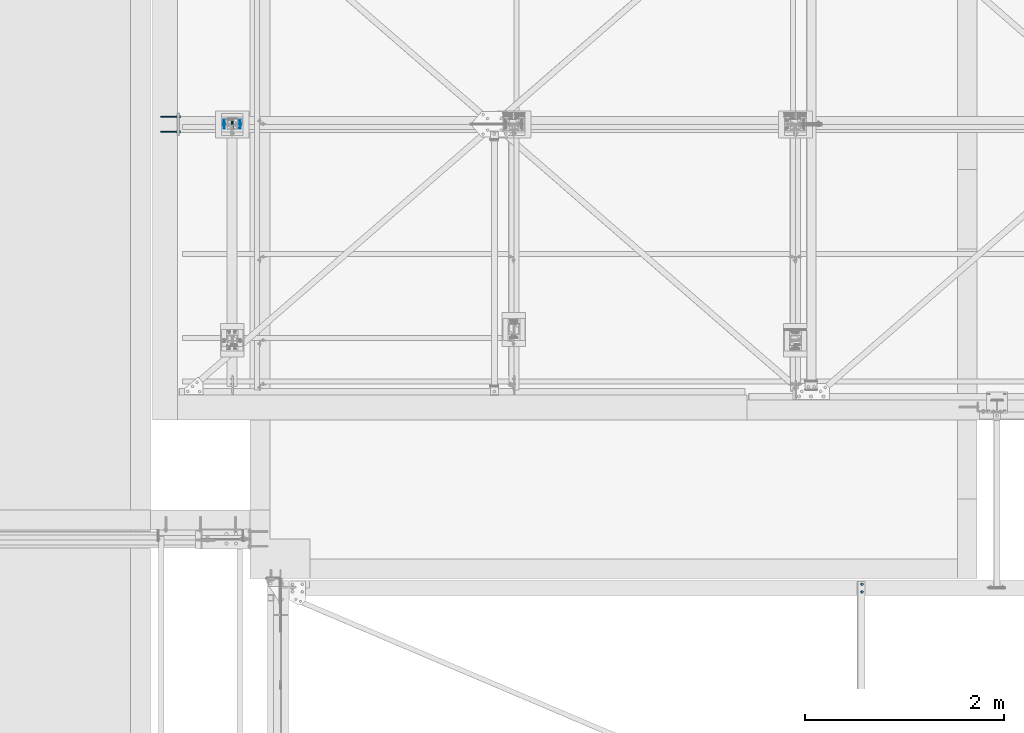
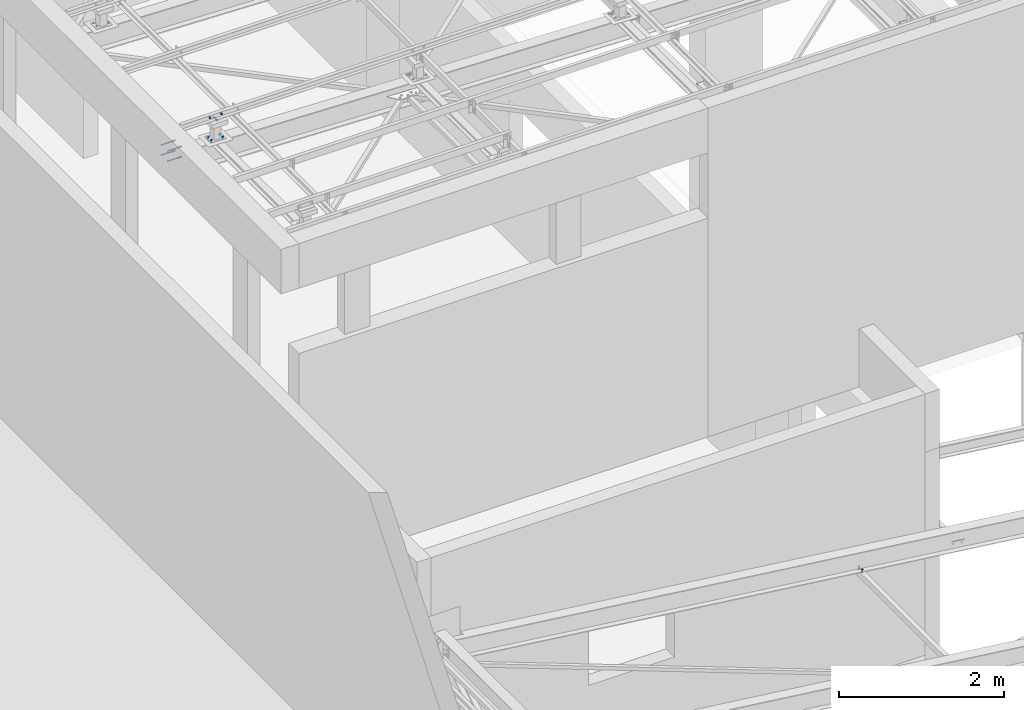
# One storey, part 223 of 3134: 6 mechanical fasteners, 4 elements without a shape of their own.
"""IFC2X3 building model written with IfcOpenShell, lengths in millimetres."""

from ifc_helpers import new_model, si_unit, frame, origin_with_axes, place, context, subcontext, project, spatial, faceted_brep, source, transform, mapped, material, type_object, element, aggregate, save


model = new_model("IFC2X3")

# Units and contexts
model_context = context("Model", 3, precision=1e-05, world=origin_with_axes())
body_context = subcontext(model_context, "Body", "Model", "MODEL_VIEW")
ifc_project = project(units=[si_unit("LENGTHUNIT", "METRE", prefix="MILLI"), si_unit("AREAUNIT", "SQUARE_METRE"), si_unit("VOLUMEUNIT", "CUBIC_METRE"), si_unit("MASSUNIT", "GRAM", prefix="KILO"), si_unit("TIMEUNIT", "SECOND"), si_unit("PLANEANGLEUNIT", "RADIAN"), si_unit("SOLIDANGLEUNIT", "STERADIAN"), si_unit("THERMODYNAMICTEMPERATUREUNIT", "DEGREE_CELSIUS"), si_unit("LUMINOUSINTENSITYUNIT", "LUMEN")], contexts=[model_context])

# Site, building, storey
site_placement = place(None, origin_with_axes())
site = spatial("IfcSite", under=ifc_project, at=site_placement, CompositionType="ELEMENT")
building_placement = place(site_placement, origin_with_axes())
building = spatial("IfcBuilding", under=site, at=building_placement, Name="Undefined", CompositionType="ELEMENT")
storey_placement = place(building_placement, origin_with_axes())
storey = spatial("IfcBuildingStorey", under=building, at=storey_placement, Name="Undefined", CompositionType="ELEMENT", Elevation=0.0)

# Assembly, mechanical fastener
assembly_1_placement = place(storey_placement, origin_with_axes())
assembly_1 = element("IfcElementAssembly", 1, at=assembly_1_placement, inside=storey, AssemblyPlace="NOTDEFINED", PredefinedType="RIGID_FRAME")
ifc_material_1 = material(Name="8.8")
mechanical_fastener_type = type_object("IfcMechanicalFastenerType", Name="Bolt assembly")
shared_shape_1 = source(origin_with_axes(), body_context, "Body", "Brep", [
    faceted_brep([(10.9696551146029, -14.0, 0.0), (5.48482755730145, -14.0, 9.5), (-5.48482755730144, -14.0, 9.5), (-10.9696551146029, -14.0, 1.34339530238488e-15), (-5.48482755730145, -14.0, -9.5), (5.48482755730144, -14.0, -9.50000000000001), (5.48482755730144, -6.0, -9.50000000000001), (-5.48482755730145, -6.0, -9.5), (-10.9696551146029, -6.0, 1.34339530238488e-15), (-5.48482755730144, -6.0, 9.5), (5.48482755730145, -6.0, 9.5), (10.9696551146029, -6.0, 0.0), (6.0, -6.0, 0.0), (5.19615242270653, -6.0, 3.00000000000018), (2.99999999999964, -6.0, 5.19615242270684), (-6.21801588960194e-13, -6.0, 6.0), (-3.00000000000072, -6.0, 5.19615242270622), (-5.19615242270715, -6.0, 2.9999999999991), (-6.0, -6.0, -1.24360317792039e-12), (-5.19615242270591, -6.0, -3.00000000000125), (-2.99999999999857, -6.0, -5.19615242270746), (1.85874342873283e-12, -6.0, -6.0), (3.00000000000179, -6.0, -5.1961524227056), (5.19615242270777, -6.0, -2.99999999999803), (5.19615242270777, 19.0, -2.99999999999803), (3.00000000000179, 19.0, -5.1961524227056), (1.85874342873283e-12, 19.0, -6.0), (-2.99999999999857, 19.0, -5.19615242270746), (-5.19615242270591, 19.0, -3.00000000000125), (-6.0, 19.0, -1.24360317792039e-12), (-5.19615242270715, 19.0, 2.9999999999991), (-3.00000000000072, 19.0, 5.19615242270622), (-6.21801588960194e-13, 19.0, 6.0), (2.99999999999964, 19.0, 5.19615242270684), (5.19615242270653, 19.0, 3.00000000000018), (6.0, 19.0, 0.0), (10.9696551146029, 4.00000000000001, 0.0), (5.48482755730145, 4.00000000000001, 9.5), (-5.48482755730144, 4.00000000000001, 9.5), (-10.9696551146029, 4.00000000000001, 1.34339530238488e-15), (-5.48482755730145, 4.00000000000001, -9.5), (5.48482755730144, 4.00000000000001, -9.50000000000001), (5.48482755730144, 14.0, -9.50000000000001), (-5.48482755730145, 14.0, -9.5), (-10.9696551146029, 14.0, 1.34339530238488e-15), (-5.48482755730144, 14.0, 9.5), (5.48482755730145, 14.0, 9.5), (10.9696551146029, 14.0, 0.0)], [[[0, 1, 2, 3, 4, 5]], [[6, 7, 8, 9, 10, 11]], [[0, 11, 10, 1]], [[1, 10, 9, 2]], [[2, 9, 8, 3]], [[3, 8, 7, 4]], [[4, 7, 6, 5]], [[5, 6, 11, 0]], [[12, 13, 14, 15, 16, 17, 18, 19, 20, 21, 22, 23]], [[24, 25, 26, 27, 28, 29, 30, 31, 32, 33, 34, 35]], [[12, 35, 34, 13]], [[13, 34, 33, 14]], [[14, 33, 32, 15]], [[15, 32, 31, 16]], [[16, 31, 30, 17]], [[17, 30, 29, 18]], [[18, 29, 28, 19]], [[19, 28, 27, 20]], [[20, 27, 26, 21]], [[21, 26, 25, 22]], [[22, 25, 24, 23]], [[23, 24, 35, 12]], [[36, 37, 38, 39, 40, 41]], [[42, 43, 44, 45, 46, 47]], [[36, 47, 46, 37]], [[37, 46, 45, 38]], [[38, 45, 44, 39]], [[39, 44, 43, 40]], [[40, 43, 42, 41]], [[41, 42, 47, 36]]]),
    faceted_brep([(7.0, -0.1, 0.0), (6.06217782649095, -0.1, 3.50000000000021), (3.49999999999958, -0.1, 6.06217782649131), (-7.25435187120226e-13, -0.1, 7.0), (-3.50000000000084, -0.1, 6.06217782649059), (-6.06217782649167, -0.1, 3.49999999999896), (-7.0, -0.1, -1.45087037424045e-12), (-6.06217782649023, -0.1, -3.50000000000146), (-3.49999999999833, -0.1, -6.06217782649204), (2.1685340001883e-12, -0.1, -7.0), (3.50000000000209, -0.1, -6.06217782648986), (6.0621778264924, -0.1, -3.4999999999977), (6.0621778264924, 4.00000000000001, -3.4999999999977), (3.50000000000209, 4.00000000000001, -6.06217782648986), (2.1685340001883e-12, 4.00000000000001, -7.0), (-3.49999999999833, 4.00000000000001, -6.06217782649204), (-6.06217782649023, 4.00000000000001, -3.50000000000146), (-7.0, 4.00000000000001, -1.45087037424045e-12), (-6.06217782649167, 4.00000000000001, 3.49999999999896), (-3.50000000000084, 4.00000000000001, 6.06217782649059), (-7.25435187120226e-13, 4.00000000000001, 7.0), (3.49999999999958, 4.00000000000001, 6.06217782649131), (6.06217782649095, 4.00000000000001, 3.50000000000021), (7.0, 4.00000000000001, 0.0), (7.0, -5.9, 0.0), (6.06217782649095, -5.9, 3.50000000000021), (3.49999999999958, -5.9, 6.06217782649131), (-7.25435187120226e-13, -5.9, 7.0), (-3.50000000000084, -5.9, 6.06217782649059), (-6.06217782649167, -5.9, 3.49999999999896), (-7.0, -5.9, -1.45087037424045e-12), (-6.06217782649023, -5.9, -3.50000000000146), (-3.49999999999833, -5.9, -6.06217782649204), (2.1685340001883e-12, -5.9, -7.0), (3.50000000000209, -5.9, -6.06217782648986), (6.0621778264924, -5.9, -3.4999999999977), (6.0621778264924, 0.0999999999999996, -3.4999999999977), (3.50000000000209, 0.0999999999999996, -6.06217782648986), (2.1685340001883e-12, 0.0999999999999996, -7.0), (-3.49999999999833, 0.0999999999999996, -6.06217782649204), (-6.06217782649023, 0.0999999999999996, -3.50000000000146), (-7.0, 0.0999999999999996, -1.45087037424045e-12), (-6.06217782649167, 0.0999999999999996, 3.49999999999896), (-3.50000000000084, 0.0999999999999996, 6.06217782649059), (-7.25435187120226e-13, 0.0999999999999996, 7.0), (3.49999999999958, 0.0999999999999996, 6.06217782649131), (6.06217782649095, 0.0999999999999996, 3.50000000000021), (7.0, 0.0999999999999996, 0.0)], [[[0, 1, 2, 3, 4, 5, 6, 7, 8, 9, 10, 11]], [[12, 13, 14, 15, 16, 17, 18, 19, 20, 21, 22, 23]], [[0, 23, 22, 1]], [[1, 22, 21, 2]], [[2, 21, 20, 3]], [[3, 20, 19, 4]], [[4, 19, 18, 5]], [[5, 18, 17, 6]], [[6, 17, 16, 7]], [[7, 16, 15, 8]], [[8, 15, 14, 9]], [[9, 14, 13, 10]], [[10, 13, 12, 11]], [[11, 12, 23, 0]], [[24, 25, 26, 27, 28, 29, 30, 31, 32, 33, 34, 35]], [[36, 37, 38, 39, 40, 41, 42, 43, 44, 45, 46, 47]], [[24, 47, 46, 25]], [[25, 46, 45, 26]], [[26, 45, 44, 27]], [[27, 44, 43, 28]], [[28, 43, 42, 29]], [[29, 42, 41, 30]], [[30, 41, 40, 31]], [[31, 40, 39, 32]], [[32, 39, 38, 33]], [[33, 38, 37, 34]], [[34, 37, 36, 35]], [[35, 36, 47, 24]]]),
])
mechanical_fastener_1_placement = place(assembly_1_placement, frame((20440.0, 52690.0, 10900.0), z_axis=(0.0, 0.0, 1.0), x_axis=(-1.0, 0.0, 0.0)))
mechanical_fastener_1 = element("IfcMechanicalFastener", 2, at=mechanical_fastener_1_placement, type_object=mechanical_fastener_type, material=ifc_material_1, Name="Bolt assembly", NominalDiameter=12.0, NominalLength=25.0, context=body_context, shape_type="MappedRepresentation", body=[
    mapped(shared_shape_1, transform((0.0, 0.0, 0.0))),
    mapped(shared_shape_1, transform((160.0, 0.0, 0.0))),
])

assembly_2_placement = place(storey_placement, origin_with_axes())
assembly_2 = element("IfcElementAssembly", 3, at=assembly_2_placement, inside=storey, AssemblyPlace="NOTDEFINED", PredefinedType="RIGID_FRAME")
shared_shape_2 = source(origin_with_axes(), body_context, "Body", "Brep", [
    faceted_brep([(13.856406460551, -19.199990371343, 0.0), (6.92820323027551, -19.199990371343, 12.0), (-6.92820323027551, -19.199990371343, 12.0), (-13.856406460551, -19.199990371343, 1.69692038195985e-15), (-6.92820323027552, -19.199990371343, -12.0), (6.9282032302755, -19.199990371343, -12.0), (6.9282032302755, -9.19999037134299, -12.0), (-6.92820323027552, -9.19999037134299, -12.0), (-13.856406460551, -9.19999037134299, 1.69692038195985e-15), (-6.92820323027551, -9.19999037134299, 12.0), (6.92820323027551, -9.19999037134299, 12.0), (13.856406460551, -9.19999037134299, 0.0), (8.0, -9.19999037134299, 0.0), (6.92820323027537, -9.19999037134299, 4.00000000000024), (3.99999999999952, -9.19999037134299, 6.92820323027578), (-8.29068785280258e-13, -9.19999037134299, 8.0), (-4.00000000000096, -9.19999037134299, 6.92820323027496), (-6.9282032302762, -9.19999037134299, 3.99999999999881), (-8.0, -9.19999037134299, -1.65813757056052e-12), (-6.92820323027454, -9.19999037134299, -4.00000000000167), (-3.99999999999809, -9.19999037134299, -6.92820323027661), (2.47832457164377e-12, -9.19999037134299, -8.0), (4.00000000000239, -9.19999037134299, -6.92820323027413), (6.92820323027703, -9.19999037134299, -3.99999999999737), (6.92820323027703, 35.8000002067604, -3.99999999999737), (4.00000000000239, 35.8000002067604, -6.92820323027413), (2.47832457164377e-12, 35.8000002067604, -8.0), (-3.99999999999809, 35.8000002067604, -6.92820323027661), (-6.92820323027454, 35.8000002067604, -4.00000000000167), (-8.0, 35.8000002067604, -1.65813757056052e-12), (-6.9282032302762, 35.8000002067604, 3.99999999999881), (-4.00000000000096, 35.8000002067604, 6.92820323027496), (-8.29068785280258e-13, 35.8000002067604, 8.0), (3.99999999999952, 35.8000002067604, 6.92820323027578), (6.92820323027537, 35.8000002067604, 4.00000000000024), (8.0, 35.8000002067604, 0.0), (13.856406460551, 14.9999995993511, 0.0), (6.92820323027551, 14.9999995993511, 12.0), (-6.92820323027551, 14.9999995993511, 12.0), (-13.856406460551, 14.9999995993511, 1.69692038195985e-15), (-6.92820323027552, 14.9999995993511, -12.0), (6.9282032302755, 14.9999995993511, -12.0), (6.9282032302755, 27.9999995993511, -12.0), (-6.92820323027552, 27.9999995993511, -12.0), (-13.856406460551, 27.9999995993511, 1.69692038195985e-15), (-6.92820323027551, 27.9999995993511, 12.0), (6.92820323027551, 27.9999995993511, 12.0), (13.856406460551, 27.9999995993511, 0.0)], [[[0, 1, 2, 3, 4, 5]], [[6, 7, 8, 9, 10, 11]], [[0, 11, 10, 1]], [[1, 10, 9, 2]], [[2, 9, 8, 3]], [[3, 8, 7, 4]], [[4, 7, 6, 5]], [[5, 6, 11, 0]], [[12, 13, 14, 15, 16, 17, 18, 19, 20, 21, 22, 23]], [[24, 25, 26, 27, 28, 29, 30, 31, 32, 33, 34, 35]], [[12, 35, 34, 13]], [[13, 34, 33, 14]], [[14, 33, 32, 15]], [[15, 32, 31, 16]], [[16, 31, 30, 17]], [[17, 30, 29, 18]], [[18, 29, 28, 19]], [[19, 28, 27, 20]], [[20, 27, 26, 21]], [[21, 26, 25, 22]], [[22, 25, 24, 23]], [[23, 24, 35, 12]], [[36, 37, 38, 39, 40, 41]], [[42, 43, 44, 45, 46, 47]], [[36, 47, 46, 37]], [[37, 46, 45, 38]], [[38, 45, 44, 39]], [[39, 44, 43, 40]], [[40, 43, 42, 41]], [[41, 42, 47, 36]]]),
    faceted_brep([(9.0, -9.09999037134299, 0.0), (7.79422863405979, -9.09999037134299, 4.50000000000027), (4.49999999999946, -9.09999037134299, 7.79422863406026), (-9.3270238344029e-13, -9.09999037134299, 9.0), (-4.50000000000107, -9.09999037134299, 7.79422863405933), (-7.79422863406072, -9.09999037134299, 4.49999999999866), (-9.0, -9.09999037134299, -1.86540476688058e-12), (-7.79422863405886, -9.09999037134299, -4.50000000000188), (-4.49999999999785, -9.09999037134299, -7.79422863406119), (2.78811514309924e-12, -9.09999037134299, -9.0), (4.50000000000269, -9.09999037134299, -7.7942286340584), (7.79422863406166, -9.09999037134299, -4.49999999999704), (7.79422863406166, 0.100000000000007, -4.49999999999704), (4.50000000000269, 0.100000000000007, -7.7942286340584), (2.78811514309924e-12, 0.100000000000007, -9.0), (-4.49999999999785, 0.100000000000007, -7.79422863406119), (-7.79422863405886, 0.100000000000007, -4.50000000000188), (-9.0, 0.100000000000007, -1.86540476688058e-12), (-7.79422863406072, 0.100000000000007, 4.49999999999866), (-4.50000000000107, 0.100000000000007, 7.79422863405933), (-9.3270238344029e-13, 0.100000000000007, 9.0), (4.49999999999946, 0.100000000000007, 7.79422863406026), (7.79422863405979, 0.100000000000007, 4.50000000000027), (9.0, 0.100000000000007, 0.0), (9.0, 7.9, 0.0), (7.79422863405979, 7.9, 4.50000000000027), (4.49999999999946, 7.9, 7.79422863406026), (-9.3270238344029e-13, 7.9, 9.0), (-4.50000000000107, 7.9, 7.79422863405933), (-7.79422863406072, 7.9, 4.49999999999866), (-9.0, 7.9, -1.86540476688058e-12), (-7.79422863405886, 7.9, -4.50000000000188), (-4.49999999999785, 7.9, -7.79422863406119), (2.78811514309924e-12, 7.9, -9.0), (4.50000000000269, 7.9, -7.7942286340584), (7.79422863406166, 7.9, -4.49999999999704), (7.79422863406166, 14.9999995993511, -4.49999999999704), (4.50000000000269, 14.9999995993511, -7.7942286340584), (2.78811514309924e-12, 14.9999995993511, -9.0), (-4.49999999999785, 14.9999995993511, -7.79422863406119), (-7.79422863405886, 14.9999995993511, -4.50000000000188), (-9.0, 14.9999995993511, -1.86540476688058e-12), (-7.79422863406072, 14.9999995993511, 4.49999999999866), (-4.50000000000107, 14.9999995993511, 7.79422863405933), (-9.3270238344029e-13, 14.9999995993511, 9.0), (4.49999999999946, 14.9999995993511, 7.79422863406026), (7.79422863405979, 14.9999995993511, 4.50000000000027), (9.0, 14.9999995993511, 0.0)], [[[0, 1, 2, 3, 4, 5, 6, 7, 8, 9, 10, 11]], [[12, 13, 14, 15, 16, 17, 18, 19, 20, 21, 22, 23]], [[0, 23, 22, 1]], [[1, 22, 21, 2]], [[2, 21, 20, 3]], [[3, 20, 19, 4]], [[4, 19, 18, 5]], [[5, 18, 17, 6]], [[6, 17, 16, 7]], [[7, 16, 15, 8]], [[8, 15, 14, 9]], [[9, 14, 13, 10]], [[10, 13, 12, 11]], [[11, 12, 23, 0]], [[24, 25, 26, 27, 28, 29, 30, 31, 32, 33, 34, 35]], [[36, 37, 38, 39, 40, 41, 42, 43, 44, 45, 46, 47]], [[24, 47, 46, 25]], [[25, 46, 45, 26]], [[26, 45, 44, 27]], [[27, 44, 43, 28]], [[28, 43, 42, 29]], [[29, 42, 41, 30]], [[30, 41, 40, 31]], [[31, 40, 39, 32]], [[32, 39, 38, 33]], [[33, 38, 37, 34]], [[34, 37, 36, 35]], [[35, 36, 47, 24]]]),
])
mechanical_fastener_2_placement = place(assembly_2_placement, frame((26687.9849612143, 47992.0, 4806.73358922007), z_axis=(-0.992623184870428, 0.0, 0.121240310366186), x_axis=(0.0, 1.0, 0.0)))
mechanical_fastener_2 = element("IfcMechanicalFastener", 4, at=mechanical_fastener_2_placement, type_object=mechanical_fastener_type, material=ifc_material_1, Name="Bolt assembly", NominalDiameter=16.0, NominalLength=45.0, context=body_context, shape_type="MappedRepresentation", body=[
    mapped(shared_shape_2, transform((0.0, 0.0, 0.0))),
    mapped(shared_shape_2, transform((76.0, 0.0, 0.0))),
])
aggregate(assembly_2, [mechanical_fastener_2])

assembly_3_placement = place(storey_placement, origin_with_axes())
assembly_3 = element("IfcElementAssembly", 5, at=assembly_3_placement, inside=storey, AssemblyPlace="NOTDEFINED", PredefinedType="RIGID_FRAME")
shared_shape_3 = source(origin_with_axes(), body_context, "Body", "Brep", [
    faceted_brep([(7.0, 13.0000253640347, 0.0), (6.06217782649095, 13.0000253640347, 3.50000000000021), (3.49999999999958, 13.0000253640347, 6.06217782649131), (-7.25435187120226e-13, 13.0000253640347, 7.0), (-3.50000000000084, 13.0000253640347, 6.06217782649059), (-6.06217782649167, 13.0000253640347, 3.49999999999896), (-7.0, 13.0000253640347, -1.45087037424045e-12), (-6.06217782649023, 13.0000253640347, -3.50000000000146), (-3.49999999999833, 13.0000253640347, -6.06217782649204), (2.1685340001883e-12, 13.0000253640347, -7.0), (3.50000000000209, 13.0000253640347, -6.06217782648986), (6.0621778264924, 13.0000253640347, -3.4999999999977), (6.0621778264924, 15.0999999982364, -3.4999999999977), (3.50000000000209, 15.0999999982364, -6.06217782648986), (2.1685340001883e-12, 15.0999999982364, -7.0), (-3.49999999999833, 15.0999999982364, -6.06217782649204), (-6.06217782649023, 15.0999999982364, -3.50000000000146), (-7.0, 15.0999999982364, -1.45087037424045e-12), (-6.06217782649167, 15.0999999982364, 3.49999999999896), (-3.50000000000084, 15.0999999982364, 6.06217782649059), (-7.25435187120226e-13, 15.0999999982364, 7.0), (3.49999999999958, 15.0999999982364, 6.06217782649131), (6.06217782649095, 15.0999999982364, 3.50000000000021), (7.0, 15.0999999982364, 0.0)], [[[0, 1, 2, 3, 4, 5, 6, 7, 8, 9, 10, 11]], [[12, 13, 14, 15, 16, 17, 18, 19, 20, 21, 22, 23]], [[0, 23, 22, 1]], [[1, 22, 21, 2]], [[2, 21, 20, 3]], [[3, 20, 19, 4]], [[4, 19, 18, 5]], [[5, 18, 17, 6]], [[6, 17, 16, 7]], [[7, 16, 15, 8]], [[8, 15, 14, 9]], [[9, 14, 13, 10]], [[10, 13, 12, 11]], [[11, 12, 23, 0]]]),
])
mechanical_fastener_3_placement = place(assembly_3_placement, frame((20359.2851187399, 52728.0, 10554.9572055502), z_axis=(-0.99951962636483, 0.0, 0.0309922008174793), x_axis=(0.0, -1.0, 0.0)))
mechanical_fastener_3 = element("IfcMechanicalFastener", 6, at=mechanical_fastener_3_placement, type_object=mechanical_fastener_type, material=ifc_material_1, Name="Bolt assembly", NominalDiameter=12.0, NominalLength=2.0, context=body_context, shape_type="MappedRepresentation", body=[
    mapped(shared_shape_3, transform((0.0, -5.32963895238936e-10, -79.9999999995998))),
    mapped(shared_shape_3, transform((76.0, -5.32963895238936e-10, -79.9999999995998))),
    mapped(shared_shape_3, transform((0.0, 5.3114490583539e-10, 79.9999999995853))),
    mapped(shared_shape_3, transform((76.0, 5.3114490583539e-10, 79.9999999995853))),
])
aggregate(assembly_3, [mechanical_fastener_3])

# Mechanical fastener
shared_shape_4 = source(origin_with_axes(), body_context, "Body", "Brep", [
    faceted_brep([(9.0, -50.0, 0.0), (7.79422863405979, -50.0, 4.50000000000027), (4.49999999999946, -50.0, 7.79422863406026), (-9.3270238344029e-13, -50.0, 9.0), (-4.50000000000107, -50.0, 7.79422863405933), (-7.79422863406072, -50.0, 4.49999999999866), (-9.0, -50.0, -1.86540476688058e-12), (-7.79422863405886, -50.0, -4.50000000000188), (-4.49999999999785, -50.0, -7.79422863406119), (2.78811514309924e-12, -50.0, -9.0), (4.50000000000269, -50.0, -7.7942286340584), (7.79422863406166, -50.0, -4.49999999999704), (7.79422863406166, 50.1, -4.49999999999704), (4.50000000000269, 50.1, -7.7942286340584), (2.78811514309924e-12, 50.1, -9.0), (-4.49999999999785, 50.1, -7.79422863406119), (-7.79422863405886, 50.1, -4.50000000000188), (-9.0, 50.1, -1.86540476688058e-12), (-7.79422863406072, 50.1, 4.49999999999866), (-4.50000000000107, 50.1, 7.79422863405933), (-9.3270238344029e-13, 50.1, 9.0), (4.49999999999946, 50.1, 7.79422863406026), (7.79422863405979, 50.1, 4.50000000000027), (9.0, 50.1, 0.0)], [[[0, 1, 2, 3, 4, 5, 6, 7, 8, 9, 10, 11]], [[12, 13, 14, 15, 16, 17, 18, 19, 20, 21, 22, 23]], [[0, 23, 22, 1]], [[1, 22, 21, 2]], [[2, 21, 20, 3]], [[3, 20, 19, 4]], [[4, 19, 18, 5]], [[5, 18, 17, 6]], [[6, 17, 16, 7]], [[7, 16, 15, 8]], [[8, 15, 14, 9]], [[9, 14, 13, 10]], [[10, 13, 12, 11]], [[11, 12, 23, 0]]]),
])
mechanical_fastener_4_placement = place(assembly_1_placement, frame((20360.0, 52690.0, 10851.0), z_axis=(-1.0, 0.0, 0.0), x_axis=(0.0, 0.0, 1.0)))
mechanical_fastener_4 = element("IfcMechanicalFastener", 7, at=mechanical_fastener_4_placement, type_object=mechanical_fastener_type, material=ifc_material_1, Name="Bolt assembly", NominalDiameter=16.0, NominalLength=100.0, context=body_context, shape_type="MappedRepresentation", body=[
    mapped(shared_shape_4, transform((0.0, 0.0, 0.0))),
])

aggregate(assembly_1, [mechanical_fastener_4, mechanical_fastener_1])

# Assembly, mechanical fasteners
assembly_4_placement = place(storey_placement, origin_with_axes())
assembly_4 = element("IfcElementAssembly", 8, at=assembly_4_placement, inside=storey, Name="IPE330", AssemblyPlace="NOTDEFINED", PredefinedType="RIGID_FRAME")
ifc_material_2 = material(Name="HILTI-HAS")
shared_shape_5 = source(origin_with_axes(), body_context, "Body", "Brep", [
    faceted_brep([(13.856406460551, -10.56, 0.0), (6.92820323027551, -10.56, 12.0), (-6.92820323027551, -10.56, 12.0), (-13.856406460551, -10.56, 1.69692038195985e-15), (-6.92820323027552, -10.56, -12.0), (6.9282032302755, -10.56, -12.0), (6.9282032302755, 0.0, -12.0), (-6.92820323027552, 0.0, -12.0), (-13.856406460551, 0.0, 1.69692038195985e-15), (-6.92820323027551, 0.0, 12.0), (6.92820323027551, 0.0, 12.0), (13.856406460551, 0.0, 0.0), (8.0, 0.0, 0.0), (6.92820323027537, 0.0, 4.00000000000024), (3.99999999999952, 0.0, 6.92820323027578), (-8.29068785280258e-13, 0.0, 8.0), (-4.00000000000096, 0.0, 6.92820323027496), (-6.9282032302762, 0.0, 3.99999999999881), (-8.0, 0.0, -1.65813757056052e-12), (-6.92820323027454, 0.0, -4.00000000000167), (-3.99999999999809, 0.0, -6.92820323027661), (2.47832457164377e-12, 0.0, -8.0), (4.00000000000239, 0.0, -6.92820323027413), (6.92820323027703, 0.0, -3.99999999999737), (6.92820323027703, 190.0, -3.99999999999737), (4.00000000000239, 190.0, -6.92820323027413), (2.47832457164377e-12, 190.0, -8.0), (-3.99999999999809, 190.0, -6.92820323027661), (-6.92820323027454, 190.0, -4.00000000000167), (-8.0, 190.0, -1.65813757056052e-12), (-6.9282032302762, 190.0, 3.99999999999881), (-4.00000000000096, 190.0, 6.92820323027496), (-8.29068785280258e-13, 190.0, 8.0), (3.99999999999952, 190.0, 6.92820323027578), (6.92820323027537, 190.0, 4.00000000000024), (8.0, 190.0, 0.0), (15.3344231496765, 20.0, 0.0), (7.66721157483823, 20.0, 13.28), (-7.66721157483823, 20.0, 13.28), (-15.3344231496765, 20.0, 1.87792522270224e-15), (-7.66721157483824, 20.0, -13.28), (7.66721157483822, 20.0, -13.28), (7.66721157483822, 30.56, -13.28), (-7.66721157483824, 30.56, -13.28), (-15.3344231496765, 30.56, 1.87792522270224e-15), (-7.66721157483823, 30.56, 13.28), (7.66721157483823, 30.56, 13.28), (15.3344231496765, 30.56, 0.0)], [[[0, 1, 2, 3, 4, 5]], [[6, 7, 8, 9, 10, 11]], [[0, 11, 10, 1]], [[1, 10, 9, 2]], [[2, 9, 8, 3]], [[3, 8, 7, 4]], [[4, 7, 6, 5]], [[5, 6, 11, 0]], [[12, 13, 14, 15, 16, 17, 18, 19, 20, 21, 22, 23]], [[24, 25, 26, 27, 28, 29, 30, 31, 32, 33, 34, 35]], [[12, 35, 34, 13]], [[13, 34, 33, 14]], [[14, 33, 32, 15]], [[15, 32, 31, 16]], [[16, 31, 30, 17]], [[17, 30, 29, 18]], [[18, 29, 28, 19]], [[19, 28, 27, 20]], [[20, 27, 26, 21]], [[21, 26, 25, 22]], [[22, 25, 24, 23]], [[23, 24, 35, 12]], [[36, 37, 38, 39, 40, 41]], [[42, 43, 44, 45, 46, 47]], [[36, 47, 46, 37]], [[37, 46, 45, 38]], [[38, 45, 44, 39]], [[39, 44, 43, 40]], [[40, 43, 42, 41]], [[41, 42, 47, 36]]]),
    faceted_brep([(9.0, -3.46568413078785e-07, 0.0), (7.79422863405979, -3.46568413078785e-07, 4.50000000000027), (4.49999999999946, -3.46568413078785e-07, 7.79422863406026), (-9.3270238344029e-13, -3.46568413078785e-07, 9.0), (-4.50000000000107, -3.46568413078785e-07, 7.79422863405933), (-7.79422863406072, -3.46568413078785e-07, 4.49999999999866), (-9.0, -3.46568413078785e-07, -1.86540476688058e-12), (-7.79422863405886, -3.46568413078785e-07, -4.50000000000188), (-4.49999999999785, -3.46568413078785e-07, -7.79422863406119), (2.78811514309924e-12, -3.46568413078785e-07, -9.0), (4.50000000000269, -3.46568413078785e-07, -7.7942286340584), (7.79422863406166, -3.46568413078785e-07, -4.49999999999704), (7.79422863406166, 20.0999997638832, -4.49999999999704), (4.50000000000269, 20.0999997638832, -7.7942286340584), (2.78811514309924e-12, 20.0999997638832, -9.0), (-4.49999999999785, 20.0999997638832, -7.79422863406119), (-7.79422863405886, 20.0999997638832, -4.50000000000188), (-9.0, 20.0999997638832, -1.86540476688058e-12), (-7.79422863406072, 20.0999997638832, 4.49999999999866), (-4.50000000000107, 20.0999997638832, 7.79422863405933), (-9.3270238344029e-13, 20.0999997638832, 9.0), (4.49999999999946, 20.0999997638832, 7.79422863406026), (7.79422863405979, 20.0999997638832, 4.50000000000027), (9.0, 20.0999997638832, 0.0)], [[[0, 1, 2, 3, 4, 5, 6, 7, 8, 9, 10, 11]], [[12, 13, 14, 15, 16, 17, 18, 19, 20, 21, 22, 23]], [[0, 23, 22, 1]], [[1, 22, 21, 2]], [[2, 21, 20, 3]], [[3, 20, 19, 4]], [[4, 19, 18, 5]], [[5, 18, 17, 6]], [[6, 17, 16, 7]], [[7, 16, 15, 8]], [[8, 15, 14, 9]], [[9, 14, 13, 10]], [[10, 13, 12, 11]], [[11, 12, 23, 0]]]),
])
mechanical_fastener_5_placement = place(assembly_4_placement, frame((19830.0, 52690.0, 10669.4424502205), z_axis=(0.0, 1.0, 0.0), x_axis=(0.0, 0.0, -1.0)))
mechanical_fastener_5 = element("IfcMechanicalFastener", 9, at=mechanical_fastener_5_placement, type_object=mechanical_fastener_type, material=ifc_material_2, Name="Bolt assembly", NominalDiameter=16.0, NominalLength=190.0, context=body_context, shape_type="MappedRepresentation", body=[
    mapped(shared_shape_5, transform((0.0, 0.0, -75.0))),
    mapped(shared_shape_5, transform((150.0, 0.0, -75.0))),
    mapped(shared_shape_5, transform((0.0, 0.0, 75.0))),
    mapped(shared_shape_5, transform((150.0, 0.0, 75.0))),
])
shared_shape_6 = source(origin_with_axes(), body_context, "Body", "Brep", [
    faceted_brep([(10.9696551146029, -6.49073359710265, 0.0), (5.48482755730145, -6.49073359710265, 9.5), (-5.48482755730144, -6.49073359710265, 9.5), (-10.9696551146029, -6.49073359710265, 1.34339530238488e-15), (-5.48482755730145, -6.49073359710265, -9.5), (5.48482755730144, -6.49073359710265, -9.50000000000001), (5.48482755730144, 1.50926640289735, -9.50000000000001), (-5.48482755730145, 1.50926640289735, -9.5), (-10.9696551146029, 1.50926640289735, 1.34339530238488e-15), (-5.48482755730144, 1.50926640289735, 9.5), (5.48482755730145, 1.50926640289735, 9.5), (10.9696551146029, 1.50926640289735, 0.0), (6.0, 1.50926640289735, 0.0), (5.19615242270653, 1.50926640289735, 3.00000000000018), (2.99999999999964, 1.50926640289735, 5.19615242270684), (-6.21801588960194e-13, 1.50926640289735, 6.0), (-3.00000000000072, 1.50926640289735, 5.19615242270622), (-5.19615242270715, 1.50926640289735, 2.9999999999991), (-6.0, 1.50926640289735, -1.24360317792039e-12), (-5.19615242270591, 1.50926640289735, -3.00000000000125), (-2.99999999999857, 1.50926640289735, -5.19615242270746), (1.85874342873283e-12, 1.50926640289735, -6.0), (3.00000000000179, 1.50926640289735, -5.1961524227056), (5.19615242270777, 1.50926640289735, -2.99999999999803), (5.19615242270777, 41.5092664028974, -2.99999999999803), (3.00000000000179, 41.5092664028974, -5.1961524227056), (1.85874342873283e-12, 41.5092664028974, -6.0), (-2.99999999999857, 41.5092664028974, -5.19615242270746), (-5.19615242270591, 41.5092664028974, -3.00000000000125), (-6.0, 41.5092664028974, -1.24360317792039e-12), (-5.19615242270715, 41.5092664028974, 2.9999999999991), (-3.00000000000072, 41.5092664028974, 5.19615242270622), (-6.21801588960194e-13, 41.5092664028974, 6.0), (2.99999999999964, 41.5092664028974, 5.19615242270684), (5.19615242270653, 41.5092664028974, 3.00000000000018), (6.0, 41.5092664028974, 0.0), (10.9696551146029, 23.0139082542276, 0.0), (5.48482755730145, 23.0139082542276, 9.5), (-5.48482755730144, 23.0139082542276, 9.5), (-10.9696551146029, 23.0139082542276, 1.34339530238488e-15), (-5.48482755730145, 23.0139082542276, -9.5), (5.48482755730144, 23.0139082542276, -9.50000000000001), (5.48482755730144, 33.0139082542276, -9.50000000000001), (-5.48482755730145, 33.0139082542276, -9.5), (-10.9696551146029, 33.0139082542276, 1.34339530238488e-15), (-5.48482755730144, 33.0139082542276, 9.5), (5.48482755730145, 33.0139082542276, 9.5), (10.9696551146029, 33.0139082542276, 0.0)], [[[0, 1, 2, 3, 4, 5]], [[6, 7, 8, 9, 10, 11]], [[0, 11, 10, 1]], [[1, 10, 9, 2]], [[2, 9, 8, 3]], [[3, 8, 7, 4]], [[4, 7, 6, 5]], [[5, 6, 11, 0]], [[12, 13, 14, 15, 16, 17, 18, 19, 20, 21, 22, 23]], [[24, 25, 26, 27, 28, 29, 30, 31, 32, 33, 34, 35]], [[12, 35, 34, 13]], [[13, 34, 33, 14]], [[14, 33, 32, 15]], [[15, 32, 31, 16]], [[16, 31, 30, 17]], [[17, 30, 29, 18]], [[18, 29, 28, 19]], [[19, 28, 27, 20]], [[20, 27, 26, 21]], [[21, 26, 25, 22]], [[22, 25, 24, 23]], [[23, 24, 35, 12]], [[36, 37, 38, 39, 40, 41]], [[42, 43, 44, 45, 46, 47]], [[36, 47, 46, 37]], [[37, 46, 45, 38]], [[38, 45, 44, 39]], [[39, 44, 43, 40]], [[40, 43, 42, 41]], [[41, 42, 47, 36]]]),
    faceted_brep([(7.0, 14.9139082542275, 0.0), (6.06217782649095, 14.9139082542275, 3.50000000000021), (3.49999999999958, 14.9139082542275, 6.06217782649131), (-7.25435187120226e-13, 14.9139082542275, 7.0), (-3.50000000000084, 14.9139082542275, 6.06217782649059), (-6.06217782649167, 14.9139082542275, 3.49999999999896), (-7.0, 14.9139082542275, -1.45087037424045e-12), (-6.06217782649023, 14.9139082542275, -3.50000000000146), (-3.49999999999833, 14.9139082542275, -6.06217782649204), (2.1685340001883e-12, 14.9139082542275, -7.0), (3.50000000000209, 14.9139082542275, -6.06217782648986), (6.0621778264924, 14.9139082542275, -3.4999999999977), (6.0621778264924, 23.0139082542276, -3.4999999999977), (3.50000000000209, 23.0139082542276, -6.06217782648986), (2.1685340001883e-12, 23.0139082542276, -7.0), (-3.49999999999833, 23.0139082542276, -6.06217782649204), (-6.06217782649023, 23.0139082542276, -3.50000000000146), (-7.0, 23.0139082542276, -1.45087037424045e-12), (-6.06217782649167, 23.0139082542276, 3.49999999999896), (-3.50000000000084, 23.0139082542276, 6.06217782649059), (-7.25435187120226e-13, 23.0139082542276, 7.0), (3.49999999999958, 23.0139082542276, 6.06217782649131), (6.06217782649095, 23.0139082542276, 3.50000000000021), (7.0, 23.0139082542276, 0.0), (7.0, 1.60926640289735, 0.0), (6.06217782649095, 1.60926640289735, 3.50000000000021), (3.49999999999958, 1.60926640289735, 6.06217782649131), (-7.25435187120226e-13, 1.60926640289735, 7.0), (-3.50000000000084, 1.60926640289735, 6.06217782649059), (-6.06217782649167, 1.60926640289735, 3.49999999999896), (-7.0, 1.60926640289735, -1.45087037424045e-12), (-6.06217782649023, 1.60926640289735, -3.50000000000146), (-3.49999999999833, 1.60926640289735, -6.06217782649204), (2.1685340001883e-12, 1.60926640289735, -7.0), (3.50000000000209, 1.60926640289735, -6.06217782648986), (6.0621778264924, 1.60926640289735, -3.4999999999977), (6.0621778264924, 13.1092664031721, -3.4999999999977), (3.50000000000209, 13.1092664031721, -6.06217782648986), (2.1685340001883e-12, 13.1092664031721, -7.0), (-3.49999999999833, 13.1092664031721, -6.06217782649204), (-6.06217782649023, 13.1092664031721, -3.50000000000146), (-7.0, 13.1092664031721, -1.45087037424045e-12), (-6.06217782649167, 13.1092664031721, 3.49999999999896), (-3.50000000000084, 13.1092664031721, 6.06217782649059), (-7.25435187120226e-13, 13.1092664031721, 7.0), (3.49999999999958, 13.1092664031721, 6.06217782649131), (6.06217782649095, 13.1092664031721, 3.50000000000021), (7.0, 13.1092664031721, 0.0)], [[[0, 1, 2, 3, 4, 5, 6, 7, 8, 9, 10, 11]], [[12, 13, 14, 15, 16, 17, 18, 19, 20, 21, 22, 23]], [[0, 23, 22, 1]], [[1, 22, 21, 2]], [[2, 21, 20, 3]], [[3, 20, 19, 4]], [[4, 19, 18, 5]], [[5, 18, 17, 6]], [[6, 17, 16, 7]], [[7, 16, 15, 8]], [[8, 15, 14, 9]], [[9, 14, 13, 10]], [[10, 13, 12, 11]], [[11, 12, 23, 0]], [[24, 25, 26, 27, 28, 29, 30, 31, 32, 33, 34, 35]], [[36, 37, 38, 39, 40, 41, 42, 43, 44, 45, 46, 47]], [[24, 47, 46, 25]], [[25, 46, 45, 26]], [[26, 45, 44, 27]], [[27, 44, 43, 28]], [[28, 43, 42, 29]], [[29, 42, 41, 30]], [[30, 41, 40, 31]], [[31, 40, 39, 32]], [[32, 39, 38, 33]], [[33, 38, 37, 34]], [[34, 37, 36, 35]], [[35, 36, 47, 24]]]),
])
mechanical_fastener_6_placement = place(assembly_4_placement, frame((20359.2851187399, 52728.0, 10554.9572055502), z_axis=(-0.99951962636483, 0.0, 0.0309922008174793), x_axis=(0.0, -1.0, 0.0)))
mechanical_fastener_6 = element("IfcMechanicalFastener", 10, at=mechanical_fastener_6_placement, type_object=mechanical_fastener_type, material=ifc_material_1, Name="Bolt assembly", NominalDiameter=12.0, NominalLength=40.0, context=body_context, shape_type="MappedRepresentation", body=[
    mapped(shared_shape_6, transform((0.0, -5.32963895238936e-10, -79.9999999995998))),
    mapped(shared_shape_6, transform((76.0, -5.32963895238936e-10, -79.9999999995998))),
    mapped(shared_shape_6, transform((0.0, 5.3114490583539e-10, 79.9999999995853))),
    mapped(shared_shape_6, transform((76.0, 5.3114490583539e-10, 79.9999999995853))),
])
aggregate(assembly_4, [mechanical_fastener_5, mechanical_fastener_6])

save(model, "model.ifc")
